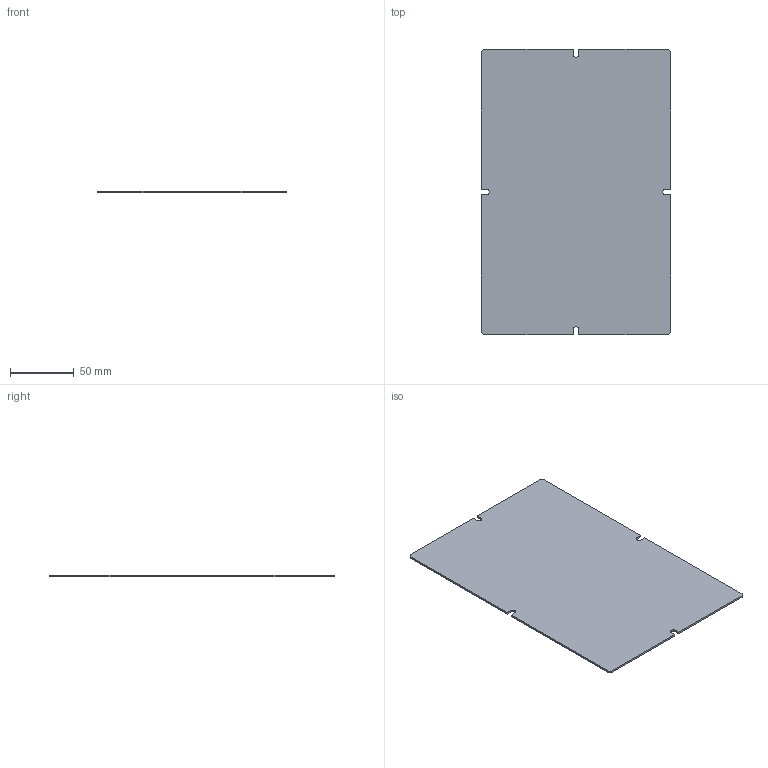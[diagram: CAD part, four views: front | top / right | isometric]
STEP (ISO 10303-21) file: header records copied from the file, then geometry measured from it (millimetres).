
FILE_DESCRIPTION((''),'1');
FILE_NAME('5','2001-04-17T',('jlue'),(''),'PRO/ENGINEER BY PARAMETRIC TECHNOLOGY CORPORATION, 9846','PRO/ENGINEER BY PARAMETRIC TECHNOLOGY CORPORATION, 9846','');
FILE_SCHEMA(('CONFIG_CONTROL_DESIGN'));
Length unit declared in the file: millimetre
Products named in the file (1): 5
Bounding box: 148 x 223 x 1.5 mm (x, y, z)
Surface area: 66953.8 mm2 (no closed solid volume)
Topology: 0 solids, 0 shells, 26 faces, 144 edges, 144 vertices
Faces by surface type: plane 22, cylinder 4
Entity records: 739 total; most frequent: COMPOSITE_CURVE_SEGMENT 144, DIRECTION 132, CARTESIAN_POINT 98, TRIMMED_CURVE 72, VECTOR 64, LINE 64, AXIS2_PLACEMENT_3D 34, CURVE_BOUNDED_SURFACE 26
